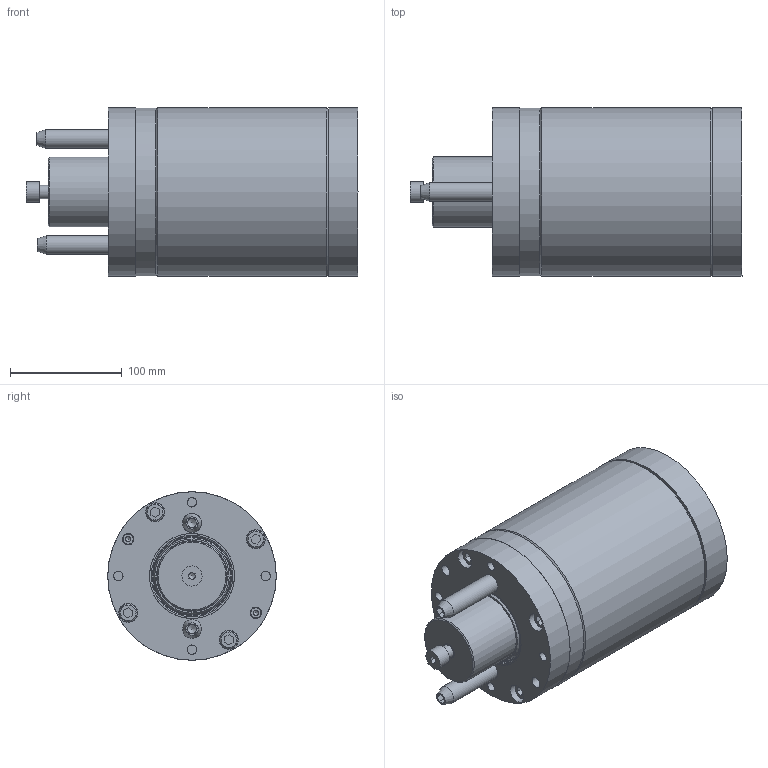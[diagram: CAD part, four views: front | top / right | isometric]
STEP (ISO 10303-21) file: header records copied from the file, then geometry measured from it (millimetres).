
FILE_DESCRIPTION(/* description */ ('SUPPORT ROLLER'),/* implementation_level */ '2;1');
FILE_NAME(/* name */ 'C:\Users\dholt\Desktop\RF3L01.stp',/* time_stamp */ '2015-07-30T14:55:29-04:00',/* author */ ('DHolt'),/* organization */ (''),/* preprocessor_version */ 'ST-DEVELOPER v15.2',/* originating_system */ 'Autodesk Inventor 2014',/* authorisation */ '');
FILE_SCHEMA (('AUTOMOTIVE_DESIGN { 1 0 10303 214 3 1 1 }'));
Products named in the file (23): RF3E01; RF3E02; RF3E04; M8X1.25-16 CONEPOINT; M8X1.25-8 CUPPOINT; RF3L03; RF3E05A; RF3E06; RF3E06-PLUGDUMMY; RF3E11; RF3E12; RF3E13; AXK85110; AS85110; NL10; M10X1.5-25 SHCS; MC-2500X3000-187U; GSM-1214-12; R19-038 1705PSI-PLUG; BH-17; 10mmX40 PULL DOWEL; RF3L01
Bounding box: 297.5 x 151.05 x 151.05 mm (x, y, z)
Volume: 3694798.4 mm3; surface area: 609629.9 mm2
Topology: 50 solids, 54 shells, 1277 faces, 2996 edges, 1906 vertices
Faces by surface type: plane 787, cylinder 296, cone 100, bspline 69, torus 25
Full cylindrical faces by diameter (mm): 3 x4, 4 x8, 4.917 x2, 6 x13, 6.5 x4, 6.647 x3, 8 x6, 8.376 x13, 9.5 x4, 9.957 x2, 10 x21, 10.106 x4, 10.5 x8, 10.7 x8, 11 x2, 12 x14, 12.7 x4, 14 x2, 16 x8, 16.6 x8, 16.942 x2, 17 x10, 18 x1, 35.052 x1, 40 x1, 55 x1, 62.85 x1, 62.992 x1, 69.85 x1, 73.2 x1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
Entity records: 27419 total; most frequent: CARTESIAN_POINT 5557, DIRECTION 4267, ORIENTED_EDGE 4040, EDGE_CURVE 2020, AXIS2_PLACEMENT_3D 1485, VERTEX_POINT 1415, LINE 1297, VECTOR 1297
